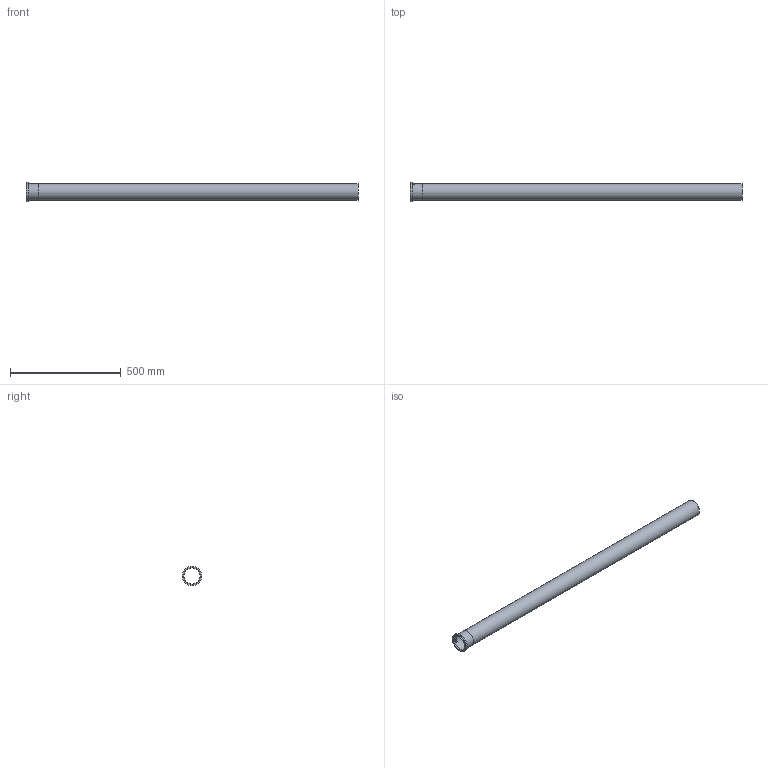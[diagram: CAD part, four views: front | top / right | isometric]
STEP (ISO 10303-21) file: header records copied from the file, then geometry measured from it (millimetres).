
FILE_DESCRIPTION((''),'2;1');
FILE_NAME('I:\WATTS\3D_CAD\3D_CAD_Models\Blucher_Drains\P_StraightPipe\WebsiteFiles\3D\STEP\P3-4.9-316.stp','2009-12-02T14:11:31',('menesek'),(''),'Autodesk Inventor 2010','Autodesk Inventor 2010','');
FILE_SCHEMA(('AUTOMOTIVE_DESIGN { 1 0 10303 214 1 1 1 1 }'));
Length unit declared in the file: inch
Products named in the file (1): P3-4.9-316
Bounding box: 1500 x 87.12 x 87.12 mm (x, y, z)
Volume: 369618.9 mm3; surface area: 700654 mm2
Topology: 1 solids, 1 shells, 109 faces, 285 edges, 190 vertices
Faces by surface type: plane 59, bspline 34, cylinder 16
Full cylindrical faces by diameter (mm): 72.898 x1, 74.93 x1, 75.946 x2, 87.122 x1
Entity records: 13765 total; most frequent: CARTESIAN_POINT 11387, ORIENTED_EDGE 548, DIRECTION 356, EDGE_CURVE 274, VERTEX_POINT 186, EDGE_LOOP 128, AXIS2_PLACEMENT_3D 120, VECTOR 116
